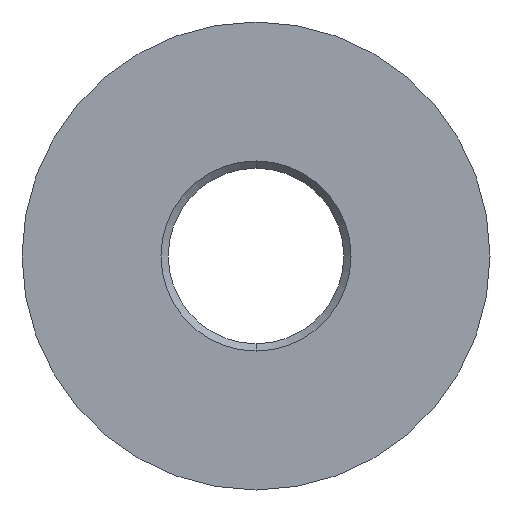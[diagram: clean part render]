
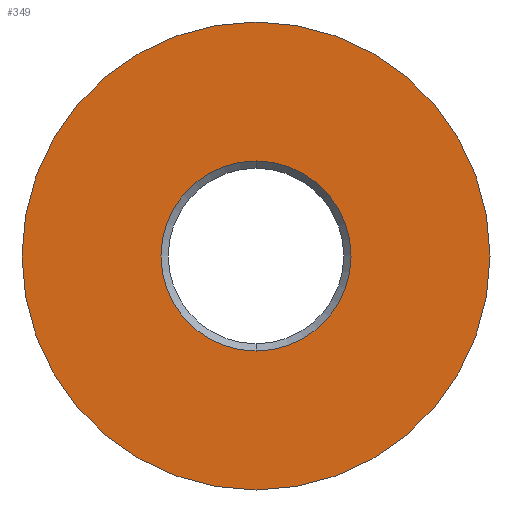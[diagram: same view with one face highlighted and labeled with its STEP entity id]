
A CAD part, front view. The second image highlights one B-rep face of the part: STEP entity #349.
In plain terms, the highlighted planar face has unit normal (0, -1, 0).
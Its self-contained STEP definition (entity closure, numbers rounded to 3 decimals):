
#9 = CARTESIAN_POINT ( 'NONE',  ( 0., -5., 0. ) ) ;
#14 = FACE_BOUND ( 'NONE', #139, .T. ) ;
#20 = DIRECTION ( 'NONE',  ( 0., 0., -1. ) ) ;
#30 = ORIENTED_EDGE ( 'NONE', *, *, #42, .F. ) ;
#42 = EDGE_CURVE ( 'NONE', #92, #113, #391, .T. ) ;
#44 = DIRECTION ( 'NONE',  ( 0., -1., 0. ) ) ;
#72 = VERTEX_POINT ( 'NONE', #151 ) ;
#76 = AXIS2_PLACEMENT_3D ( 'NONE', #121, #250, #20 ) ;
#83 = CARTESIAN_POINT ( 'NONE',  ( 0., -5., 0. ) ) ;
#85 = CIRCLE ( 'NONE', #253, 8. ) ;
#92 = VERTEX_POINT ( 'NONE', #379 ) ;
#94 = EDGE_CURVE ( 'NONE', #113, #92, #267, .T. ) ;
#107 = ORIENTED_EDGE ( 'NONE', *, *, #305, .T. ) ;
#113 = VERTEX_POINT ( 'NONE', #184 ) ;
#121 = CARTESIAN_POINT ( 'NONE',  ( 0., -5., 0. ) ) ;
#123 = DIRECTION ( 'NONE',  ( 0., 1., 0. ) ) ;
#125 = FACE_OUTER_BOUND ( 'NONE', #321, .T. ) ;
#139 = EDGE_LOOP ( 'NONE', ( #30, #382 ) ) ;
#151 = CARTESIAN_POINT ( 'NONE',  ( 0., -5., -8. ) ) ;
#155 = AXIS2_PLACEMENT_3D ( 'NONE', #9, #44, #323 ) ;
#161 = AXIS2_PLACEMENT_3D ( 'NONE', #189, #123, #194 ) ;
#180 = PLANE ( 'NONE',  #161 ) ;
#182 = CARTESIAN_POINT ( 'NONE',  ( 0., -5., 0. ) ) ;
#184 = CARTESIAN_POINT ( 'NONE',  ( 0., -5., 3.25 ) ) ;
#189 = CARTESIAN_POINT ( 'NONE',  ( -3.25, -5., 0. ) ) ;
#194 = DIRECTION ( 'NONE',  ( 0., 0., 1. ) ) ;
#224 = DIRECTION ( 'NONE',  ( 0., -1., 0. ) ) ;
#237 = CIRCLE ( 'NONE', #76, 8. ) ;
#238 = EDGE_CURVE ( 'NONE', #72, #340, #237, .T. ) ;
#250 = DIRECTION ( 'NONE',  ( 0., -1., 0. ) ) ;
#253 = AXIS2_PLACEMENT_3D ( 'NONE', #83, #224, #268 ) ;
#267 = CIRCLE ( 'NONE', #277, 3.25 ) ;
#268 = DIRECTION ( 'NONE',  ( 0., 0., -1. ) ) ;
#277 = AXIS2_PLACEMENT_3D ( 'NONE', #182, #355, #348 ) ;
#298 = ORIENTED_EDGE ( 'NONE', *, *, #238, .T. ) ;
#301 = CARTESIAN_POINT ( 'NONE',  ( 0., -5., 8. ) ) ;
#305 = EDGE_CURVE ( 'NONE', #340, #72, #85, .T. ) ;
#321 = EDGE_LOOP ( 'NONE', ( #298, #107 ) ) ;
#323 = DIRECTION ( 'NONE',  ( 0., 0., -1. ) ) ;
#340 = VERTEX_POINT ( 'NONE', #301 ) ;
#348 = DIRECTION ( 'NONE',  ( 0., 0., -1. ) ) ;
#349 = ADVANCED_FACE ( 'NONE', ( #14, #125 ), #180, .F. ) ;
#355 = DIRECTION ( 'NONE',  ( 0., -1., 0. ) ) ;
#379 = CARTESIAN_POINT ( 'NONE',  ( 0., -5., -3.25 ) ) ;
#382 = ORIENTED_EDGE ( 'NONE', *, *, #94, .F. ) ;
#391 = CIRCLE ( 'NONE', #155, 3.25 ) ;
